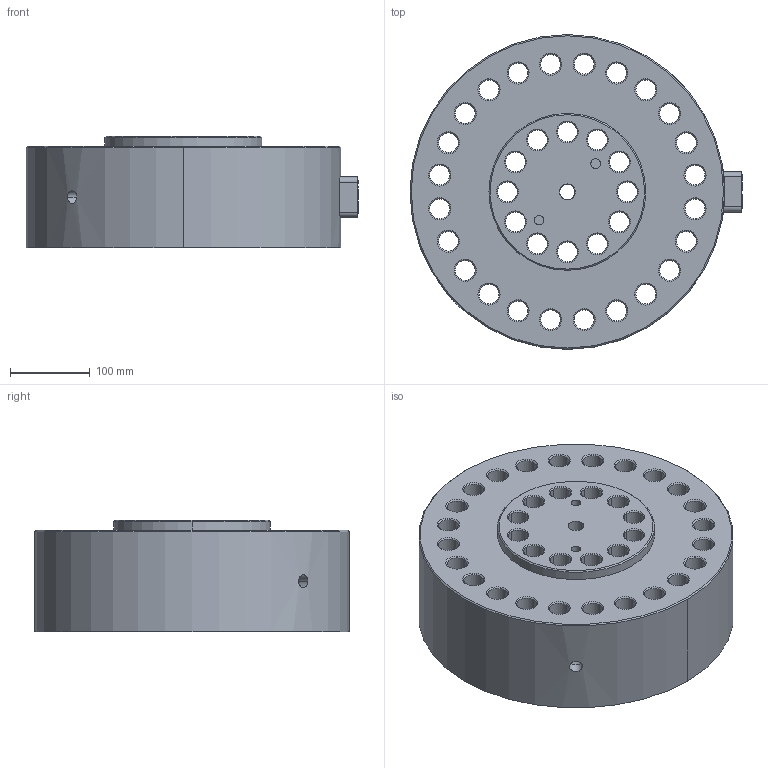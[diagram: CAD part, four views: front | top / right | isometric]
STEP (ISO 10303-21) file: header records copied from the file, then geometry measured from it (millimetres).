
FILE_DESCRIPTION (( 'STEP AP203' ), '1' );
FILE_NAME ('Interface 1268-1500KN.STEP', '2011-06-21T16:36:45', ( ' ' ), ( '' ), 'SwSTEP 2.0', 'SolidWorks 2002349', '' );
FILE_SCHEMA (( 'CONFIG_CONTROL_DESIGN' ));
Length unit declared in the file: inch
Products named in the file (1): Interface 1268-1500KN
Bounding box: 415.29 x 393.7 x 139.7 mm (x, y, z)
Volume: 13494891.4 mm3; surface area: 755818.5 mm2
Topology: 1 solids, 1 shells, 387 faces, 948 edges, 596 vertices
Faces by surface type: cylinder 161, cone 114, plane 85, bspline 27
Entity records: 12707 total; most frequent: CARTESIAN_POINT 3375, DIRECTION 2001, ORIENTED_EDGE 1888, EDGE_CURVE 944, AXIS2_PLACEMENT_3D 814, VERTEX_POINT 596, EDGE_LOOP 498, CIRCLE 453
